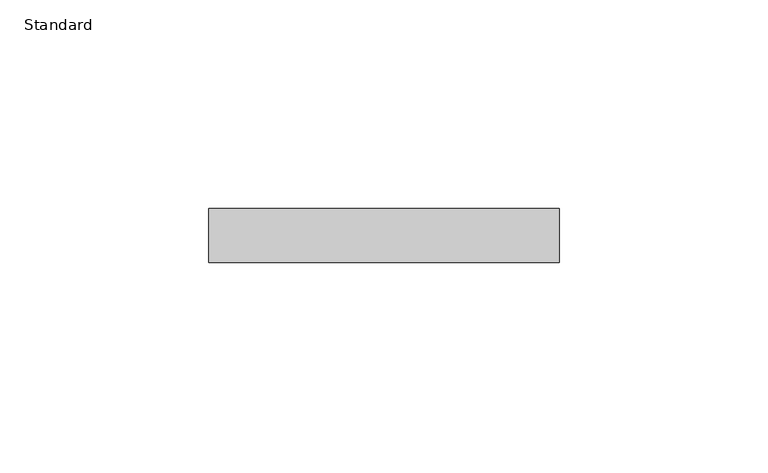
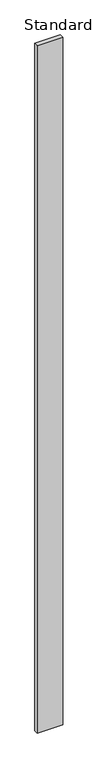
"""IFC4 building model written with IfcOpenShell, lengths in millimetres: furniture geometry, X_Partition-Compact Laminate-Duracube-Rectangular : Standard."""

from ifc_helpers import new_model, si_unit, origin, origin_with_axes, place, context, project, spatial, polyline, outline, extrude, source, transform, mapped, element, save


def standard_54add324(model_context):
    return source(origin(), model_context, "Body", "SweptSolid", [
        extrude(outline(polyline([(86.7003264, 0.0), (86.7003264, -13.0), (2.7003264, -13.0), (2.7003264, 0.0), (86.7003264, 0.0)])), origin_with_axes(), (0.0, 0.0, 1.0), 2398.0),
    ])


if __name__ == "__main__":
    model = new_model("IFC4")
    model_context = context("Model", 3, world=origin())
    ifc_project = project(units=[si_unit("LENGTHUNIT", "METRE", prefix="MILLI")], contexts=[model_context])
    site = spatial("IfcSite", under=ifc_project)
    building = spatial("IfcBuilding", under=site)
    placement = place(None, origin())
    standard_shape = standard_54add324(model_context)
    element("IfcFurniture", 1, ObjectType="X_Partition-Compact Laminate-Duracube-Rectangular : Standard", at=placement, inside=building, context=model_context, shape_type="MappedRepresentation", body=[
        mapped(standard_shape, transform((0.0, 0.0, 0.0), x_axis=(1.0, 0.0, 0.0), y_axis=(0.0, 1.0, 0.0), z_axis=(0.0, 0.0, 1.0))),
    ])
    save(model, "model.ifc")
